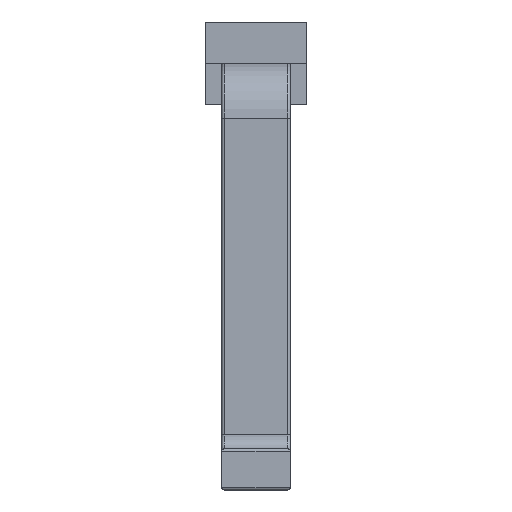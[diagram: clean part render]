
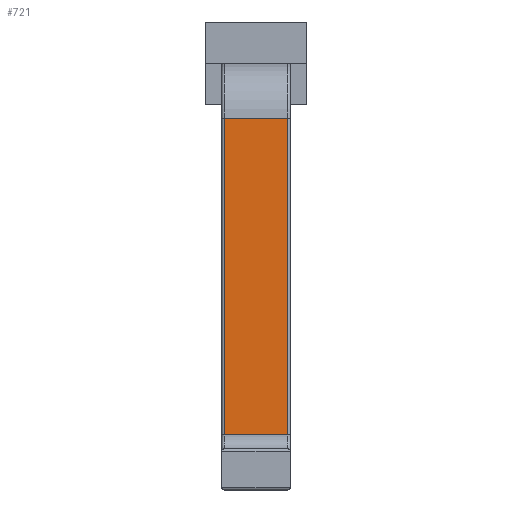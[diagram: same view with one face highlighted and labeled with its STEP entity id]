
A CAD part, front view. The second image highlights one B-rep face of the part: STEP entity #721.
In plain terms, the highlighted planar face has unit normal (0, -1, 0).
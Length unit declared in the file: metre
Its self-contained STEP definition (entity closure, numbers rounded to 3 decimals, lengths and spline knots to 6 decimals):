
#22=PLANE('',#880);
#53=LINE('',#1142,#114);
#61=LINE('',#1178,#122);
#105=LINE('',#1315,#166);
#108=LINE('',#1320,#169);
#114=VECTOR('',#911,1.);
#122=VECTOR('',#951,1.);
#166=VECTOR('',#1097,1.);
#169=VECTOR('',#1104,1.);
#326=ORIENTED_EDGE('',*,*,#478,.T.);
#327=ORIENTED_EDGE('',*,*,#387,.T.);
#328=ORIENTED_EDGE('',*,*,#475,.F.);
#329=ORIENTED_EDGE('',*,*,#405,.T.);
#387=EDGE_CURVE('',#487,#485,#53,.T.);
#405=EDGE_CURVE('',#499,#497,#61,.T.);
#475=EDGE_CURVE('',#499,#485,#105,.T.);
#478=EDGE_CURVE('',#497,#487,#108,.T.);
#485=VERTEX_POINT('',#1133);
#487=VERTEX_POINT('',#1139);
#497=VERTEX_POINT('',#1169);
#499=VERTEX_POINT('',#1175);
#616=EDGE_LOOP('',(#326,#327,#328,#329));
#659=FACE_BOUND('',#616,.T.);
#721=ADVANCED_FACE('',(#659),#22,.F.);
#880=AXIS2_PLACEMENT_3D('',#1319,#1102,#1103);
#911=DIRECTION('',(0.,0.,1.));
#951=DIRECTION('',(0.,0.,-1.));
#1097=DIRECTION('',(1.,0.,0.));
#1102=DIRECTION('',(0.,1.,0.));
#1103=DIRECTION('',(0.,0.,-1.));
#1104=DIRECTION('',(1.,0.,0.));
#1133=CARTESIAN_POINT('',(-0.000535,0.02215,0.00184));
#1139=CARTESIAN_POINT('',(-0.000535,0.02215,0.00069));
#1142=CARTESIAN_POINT('',(-0.000535,0.02215,0.00184));
#1169=CARTESIAN_POINT('',(-0.000765,0.02215,0.00069));
#1175=CARTESIAN_POINT('',(-0.000765,0.02215,0.00184));
#1178=CARTESIAN_POINT('',(-0.000765,0.02215,0.00069));
#1315=CARTESIAN_POINT('',(-0.000775,0.02215,0.00184));
#1319=CARTESIAN_POINT('',(-0.000775,0.02215,0.00184));
#1320=CARTESIAN_POINT('',(-0.000775,0.02215,0.00069));
